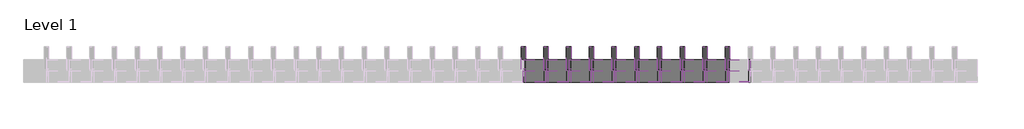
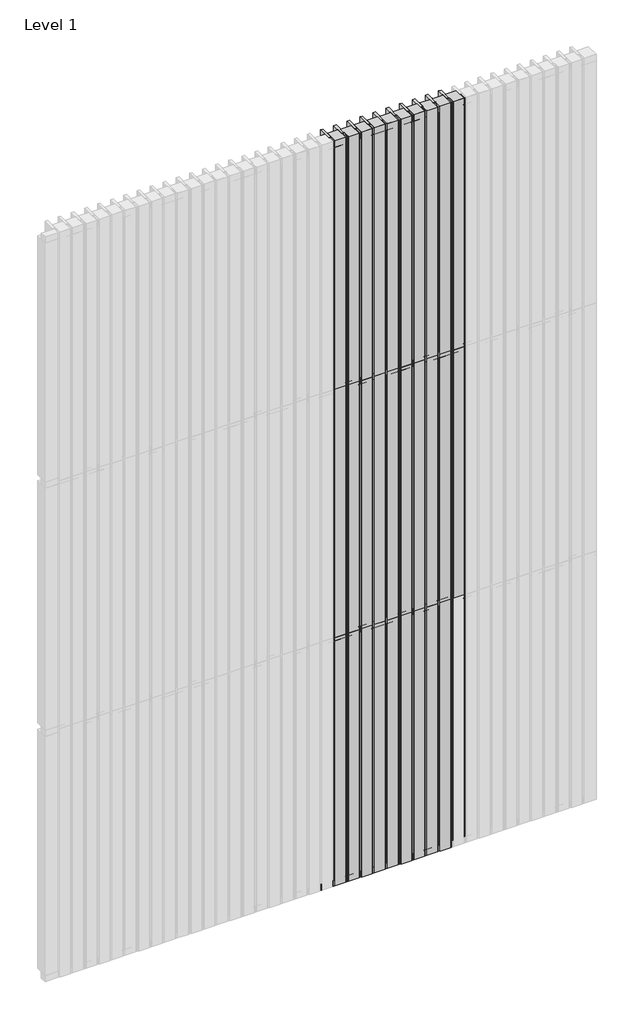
# One storey, part 5 of 6: 70 members, 59 plates.
"""IFC4 building model written with IfcOpenShell, lengths in millimetres."""

from ifc_helpers import new_model, si_unit, origin, place, context, project, spatial, transform, mapped, element, save
from components import rectangular_mullion_cddbc660, rectangular_mullion_a3e25429, rectangular_mullion_ae434dd9, rectangular_mullion_30cdfca6, empty_system_panel_empty_5411477d, empty_system_panel_empty_c50988b4, empty_system_panel_empty_3767e820

model = new_model("IFC4")

# Units and contexts
model_context = context("Model", 3, world=origin())
ifc_project = project(units=[si_unit("LENGTHUNIT", "METRE", prefix="MILLI")], contexts=[model_context])

# Site, building, storey
site = spatial("IfcSite", under=ifc_project)
building = spatial("IfcBuilding", under=site)
storey = spatial("IfcBuildingStorey", under=building, Name="Level 1", Elevation=0.0)

# Members
placement = place(None, origin())
rectangular_mullion_shape = rectangular_mullion_cddbc660(model_context)
element("IfcMember", 1, ObjectType="Rectangular Mullion : RSen_21_CWM_support profile 50x50 - left_gen_duco projects", at=placement, inside=storey, context=model_context, shape_type="MappedRepresentation", body=[
    mapped(rectangular_mullion_shape, transform((4900.0, 3000.0, 6000.0), x_axis=(0.0, 0.0, 1.0), y_axis=(0.0, 1.0, 0.0), z_axis=(-1.0, 0.0, 0.0))),
])
element("IfcMember", 2, ObjectType="Rectangular Mullion : RSen_21_CWM_support profile 50x50 - left_gen_duco projects", at=placement, inside=storey, context=model_context, shape_type="MappedRepresentation", body=[
    mapped(rectangular_mullion_shape, transform((4800.0, 3000.0, 6000.0), x_axis=(0.0, 0.0, 1.0), y_axis=(0.0, 1.0, 0.0), z_axis=(-1.0, 0.0, 0.0))),
])
element("IfcMember", 3, ObjectType="Rectangular Mullion : RSen_21_CWM_support profile 50x50 - left_gen_duco projects", at=placement, inside=storey, context=model_context, shape_type="MappedRepresentation", body=[
    mapped(rectangular_mullion_shape, transform((4700.0, 3000.0, 6000.0), x_axis=(0.0, 0.0, 1.0), y_axis=(0.0, 1.0, 0.0), z_axis=(-1.0, 0.0, 0.0))),
])
element("IfcMember", 4, ObjectType="Rectangular Mullion : RSen_21_CWM_support profile 50x50 - left_gen_duco projects", at=placement, inside=storey, context=model_context, shape_type="MappedRepresentation", body=[
    mapped(rectangular_mullion_shape, transform((4600.0, 3000.0, 6000.0), x_axis=(0.0, 0.0, 1.0), y_axis=(0.0, 1.0, 0.0), z_axis=(-1.0, 0.0, 0.0))),
])
element("IfcMember", 5, ObjectType="Rectangular Mullion : RSen_21_CWM_support profile 50x50 - left_gen_duco projects", at=placement, inside=storey, context=model_context, shape_type="MappedRepresentation", body=[
    mapped(rectangular_mullion_shape, transform((4500.0, 3000.0, 6000.0), x_axis=(0.0, 0.0, 1.0), y_axis=(0.0, 1.0, 0.0), z_axis=(-1.0, 0.0, 0.0))),
])
element("IfcMember", 6, ObjectType="Rectangular Mullion : RSen_21_CWM_support profile 50x50 - left_gen_duco projects", at=placement, inside=storey, context=model_context, shape_type="MappedRepresentation", body=[
    mapped(rectangular_mullion_shape, transform((4400.0, 3000.0, 6000.0), x_axis=(0.0, 0.0, 1.0), y_axis=(0.0, 1.0, 0.0), z_axis=(-1.0, 0.0, 0.0))),
])
element("IfcMember", 7, ObjectType="Rectangular Mullion : RSen_21_CWM_support profile 50x50 - left_gen_duco projects", at=placement, inside=storey, context=model_context, shape_type="MappedRepresentation", body=[
    mapped(rectangular_mullion_shape, transform((4300.0, 3000.0, 6000.0), x_axis=(0.0, 0.0, 1.0), y_axis=(0.0, 1.0, 0.0), z_axis=(-1.0, 0.0, 0.0))),
])
element("IfcMember", 8, ObjectType="Rectangular Mullion : RSen_21_CWM_support profile 50x50 - left_gen_duco projects", at=placement, inside=storey, context=model_context, shape_type="MappedRepresentation", body=[
    mapped(rectangular_mullion_shape, transform((4200.0, 3000.0, 6000.0), x_axis=(0.0, 0.0, 1.0), y_axis=(0.0, 1.0, 0.0), z_axis=(-1.0, 0.0, 0.0))),
])
element("IfcMember", 9, ObjectType="Rectangular Mullion : RSen_21_CWM_support profile 50x50 - left_gen_duco projects", at=placement, inside=storey, context=model_context, shape_type="MappedRepresentation", body=[
    mapped(rectangular_mullion_shape, transform((4100.0, 3000.0, 6000.0), x_axis=(0.0, 0.0, 1.0), y_axis=(0.0, 1.0, 0.0), z_axis=(-1.0, 0.0, 0.0))),
])
element("IfcMember", 10, ObjectType="Rectangular Mullion : RSen_21_CWM_support profile 50x50 - left_gen_duco projects", at=placement, inside=storey, context=model_context, shape_type="MappedRepresentation", body=[
    mapped(rectangular_mullion_shape, transform((4000.0, 3000.0, 6000.0), x_axis=(0.0, 0.0, 1.0), y_axis=(0.0, 1.0, 0.0), z_axis=(-1.0, 0.0, 0.0))),
])
rectangular_mullion_2_shape = rectangular_mullion_a3e25429(model_context)
element("IfcMember", 11, ObjectType="Rectangular Mullion : RSen_21_CWM_support profile 50x50 - right_gen_duco projects", at=placement, inside=storey, context=model_context, shape_type="MappedRepresentation", body=[
    mapped(rectangular_mullion_2_shape, transform((4900.0, 3000.0, 0.0), x_axis=(0.0, 0.0, -1.0), y_axis=(0.0, 1.0, 0.0), z_axis=(1.0, 0.0, 0.0))),
])
element("IfcMember", 12, ObjectType="Rectangular Mullion : RSen_21_CWM_support profile 50x50 - right_gen_duco projects", at=placement, inside=storey, context=model_context, shape_type="MappedRepresentation", body=[
    mapped(rectangular_mullion_2_shape, transform((4800.0, 3000.0, 0.0), x_axis=(0.0, 0.0, -1.0), y_axis=(0.0, 1.0, 0.0), z_axis=(1.0, 0.0, 0.0))),
])
element("IfcMember", 13, ObjectType="Rectangular Mullion : RSen_21_CWM_support profile 50x50 - right_gen_duco projects", at=placement, inside=storey, context=model_context, shape_type="MappedRepresentation", body=[
    mapped(rectangular_mullion_2_shape, transform((4700.0, 3000.0, 0.0), x_axis=(0.0, 0.0, -1.0), y_axis=(0.0, 1.0, 0.0), z_axis=(1.0, 0.0, 0.0))),
])
element("IfcMember", 14, ObjectType="Rectangular Mullion : RSen_21_CWM_support profile 50x50 - right_gen_duco projects", at=placement, inside=storey, context=model_context, shape_type="MappedRepresentation", body=[
    mapped(rectangular_mullion_2_shape, transform((4600.0, 3000.0, 0.0), x_axis=(0.0, 0.0, -1.0), y_axis=(0.0, 1.0, 0.0), z_axis=(1.0, 0.0, 0.0))),
])
element("IfcMember", 15, ObjectType="Rectangular Mullion : RSen_21_CWM_support profile 50x50 - right_gen_duco projects", at=placement, inside=storey, context=model_context, shape_type="MappedRepresentation", body=[
    mapped(rectangular_mullion_2_shape, transform((4500.0, 3000.0, 0.0), x_axis=(0.0, 0.0, -1.0), y_axis=(0.0, 1.0, 0.0), z_axis=(1.0, 0.0, 0.0))),
])
element("IfcMember", 16, ObjectType="Rectangular Mullion : RSen_21_CWM_support profile 50x50 - right_gen_duco projects", at=placement, inside=storey, context=model_context, shape_type="MappedRepresentation", body=[
    mapped(rectangular_mullion_2_shape, transform((4400.0, 3000.0, 0.0), x_axis=(0.0, 0.0, -1.0), y_axis=(0.0, 1.0, 0.0), z_axis=(1.0, 0.0, 0.0))),
])
element("IfcMember", 17, ObjectType="Rectangular Mullion : RSen_21_CWM_support profile 50x50 - right_gen_duco projects", at=placement, inside=storey, context=model_context, shape_type="MappedRepresentation", body=[
    mapped(rectangular_mullion_2_shape, transform((4300.0, 3000.0, 0.0), x_axis=(0.0, 0.0, -1.0), y_axis=(0.0, 1.0, 0.0), z_axis=(1.0, 0.0, 0.0))),
])
element("IfcMember", 18, ObjectType="Rectangular Mullion : RSen_21_CWM_support profile 50x50 - right_gen_duco projects", at=placement, inside=storey, context=model_context, shape_type="MappedRepresentation", body=[
    mapped(rectangular_mullion_2_shape, transform((4200.0, 3000.0, 0.0), x_axis=(0.0, 0.0, -1.0), y_axis=(0.0, 1.0, 0.0), z_axis=(1.0, 0.0, 0.0))),
])
element("IfcMember", 19, ObjectType="Rectangular Mullion : RSen_21_CWM_support profile 50x50 - right_gen_duco projects", at=placement, inside=storey, context=model_context, shape_type="MappedRepresentation", body=[
    mapped(rectangular_mullion_2_shape, transform((4100.0, 3000.0, 0.0), x_axis=(0.0, 0.0, -1.0), y_axis=(0.0, 1.0, 0.0), z_axis=(1.0, 0.0, 0.0))),
])
element("IfcMember", 20, ObjectType="Rectangular Mullion : RSen_21_CWM_support profile 50x50 - right_gen_duco projects", at=placement, inside=storey, context=model_context, shape_type="MappedRepresentation", body=[
    mapped(rectangular_mullion_2_shape, transform((4000.0, 3000.0, 0.0), x_axis=(0.0, 0.0, -1.0), y_axis=(0.0, 1.0, 0.0), z_axis=(1.0, 0.0, 0.0))),
])
rectangular_mullion_3_shape = rectangular_mullion_ae434dd9(model_context)
element("IfcMember", 21, ObjectType="Rectangular Mullion : RSen_21_CWM_support profile 50x50_gen_duco projects", at=placement, inside=storey, context=model_context, shape_type="MappedRepresentation", body=[
    mapped(rectangular_mullion_3_shape, transform((4900.0, 3000.0, 2000.0), x_axis=(0.0, 0.0, 1.0), y_axis=(0.0, 1.0, 0.0), z_axis=(-1.0, 0.0, 0.0))),
])
element("IfcMember", 22, ObjectType="Rectangular Mullion : RSen_21_CWM_support profile 50x50_gen_duco projects", at=placement, inside=storey, context=model_context, shape_type="MappedRepresentation", body=[
    mapped(rectangular_mullion_3_shape, transform((4800.0, 3000.0, 2000.0), x_axis=(0.0, 0.0, 1.0), y_axis=(0.0, 1.0, 0.0), z_axis=(-1.0, 0.0, 0.0))),
])
element("IfcMember", 23, ObjectType="Rectangular Mullion : RSen_21_CWM_support profile 50x50_gen_duco projects", at=placement, inside=storey, context=model_context, shape_type="MappedRepresentation", body=[
    mapped(rectangular_mullion_3_shape, transform((4700.0, 3000.0, 2000.0), x_axis=(0.0, 0.0, 1.0), y_axis=(0.0, 1.0, 0.0), z_axis=(-1.0, 0.0, 0.0))),
])
element("IfcMember", 24, ObjectType="Rectangular Mullion : RSen_21_CWM_support profile 50x50_gen_duco projects", at=placement, inside=storey, context=model_context, shape_type="MappedRepresentation", body=[
    mapped(rectangular_mullion_3_shape, transform((4600.0, 3000.0, 2000.0), x_axis=(0.0, 0.0, 1.0), y_axis=(0.0, 1.0, 0.0), z_axis=(-1.0, 0.0, 0.0))),
])
element("IfcMember", 25, ObjectType="Rectangular Mullion : RSen_21_CWM_support profile 50x50_gen_duco projects", at=placement, inside=storey, context=model_context, shape_type="MappedRepresentation", body=[
    mapped(rectangular_mullion_3_shape, transform((4500.0, 3000.0, 2000.0), x_axis=(0.0, 0.0, 1.0), y_axis=(0.0, 1.0, 0.0), z_axis=(-1.0, 0.0, 0.0))),
])
element("IfcMember", 26, ObjectType="Rectangular Mullion : RSen_21_CWM_support profile 50x50_gen_duco projects", at=placement, inside=storey, context=model_context, shape_type="MappedRepresentation", body=[
    mapped(rectangular_mullion_3_shape, transform((4400.0, 3000.0, 2000.0), x_axis=(0.0, 0.0, 1.0), y_axis=(0.0, 1.0, 0.0), z_axis=(-1.0, 0.0, 0.0))),
])
element("IfcMember", 27, ObjectType="Rectangular Mullion : RSen_21_CWM_support profile 50x50_gen_duco projects", at=placement, inside=storey, context=model_context, shape_type="MappedRepresentation", body=[
    mapped(rectangular_mullion_3_shape, transform((4300.0, 3000.0, 2000.0), x_axis=(0.0, 0.0, 1.0), y_axis=(0.0, 1.0, 0.0), z_axis=(-1.0, 0.0, 0.0))),
])
element("IfcMember", 28, ObjectType="Rectangular Mullion : RSen_21_CWM_support profile 50x50_gen_duco projects", at=placement, inside=storey, context=model_context, shape_type="MappedRepresentation", body=[
    mapped(rectangular_mullion_3_shape, transform((4200.0, 3000.0, 2000.0), x_axis=(0.0, 0.0, 1.0), y_axis=(0.0, 1.0, 0.0), z_axis=(-1.0, 0.0, 0.0))),
])
element("IfcMember", 29, ObjectType="Rectangular Mullion : RSen_21_CWM_support profile 50x50_gen_duco projects", at=placement, inside=storey, context=model_context, shape_type="MappedRepresentation", body=[
    mapped(rectangular_mullion_3_shape, transform((4100.0, 3000.0, 2000.0), x_axis=(0.0, 0.0, 1.0), y_axis=(0.0, 1.0, 0.0), z_axis=(-1.0, 0.0, 0.0))),
])
element("IfcMember", 30, ObjectType="Rectangular Mullion : RSen_21_CWM_support profile 50x50_gen_duco projects", at=placement, inside=storey, context=model_context, shape_type="MappedRepresentation", body=[
    mapped(rectangular_mullion_3_shape, transform((4000.0, 3000.0, 2000.0), x_axis=(0.0, 0.0, 1.0), y_axis=(0.0, 1.0, 0.0), z_axis=(-1.0, 0.0, 0.0))),
])
element("IfcMember", 31, ObjectType="Rectangular Mullion : RSen_21_CWM_support profile 50x50_gen_duco projects", at=placement, inside=storey, context=model_context, shape_type="MappedRepresentation", body=[
    mapped(rectangular_mullion_3_shape, transform((4900.0, 3000.0, 4000.0), x_axis=(0.0, 0.0, 1.0), y_axis=(0.0, 1.0, 0.0), z_axis=(-1.0, 0.0, 0.0))),
])
element("IfcMember", 32, ObjectType="Rectangular Mullion : RSen_21_CWM_support profile 50x50_gen_duco projects", at=placement, inside=storey, context=model_context, shape_type="MappedRepresentation", body=[
    mapped(rectangular_mullion_3_shape, transform((4800.0, 3000.0, 4000.0), x_axis=(0.0, 0.0, 1.0), y_axis=(0.0, 1.0, 0.0), z_axis=(-1.0, 0.0, 0.0))),
])
element("IfcMember", 33, ObjectType="Rectangular Mullion : RSen_21_CWM_support profile 50x50_gen_duco projects", at=placement, inside=storey, context=model_context, shape_type="MappedRepresentation", body=[
    mapped(rectangular_mullion_3_shape, transform((4700.0, 3000.0, 4000.0), x_axis=(0.0, 0.0, 1.0), y_axis=(0.0, 1.0, 0.0), z_axis=(-1.0, 0.0, 0.0))),
])
element("IfcMember", 34, ObjectType="Rectangular Mullion : RSen_21_CWM_support profile 50x50_gen_duco projects", at=placement, inside=storey, context=model_context, shape_type="MappedRepresentation", body=[
    mapped(rectangular_mullion_3_shape, transform((4600.0, 3000.0, 4000.0), x_axis=(0.0, 0.0, 1.0), y_axis=(0.0, 1.0, 0.0), z_axis=(-1.0, 0.0, 0.0))),
])
element("IfcMember", 35, ObjectType="Rectangular Mullion : RSen_21_CWM_support profile 50x50_gen_duco projects", at=placement, inside=storey, context=model_context, shape_type="MappedRepresentation", body=[
    mapped(rectangular_mullion_3_shape, transform((4500.0, 3000.0, 4000.0), x_axis=(0.0, 0.0, 1.0), y_axis=(0.0, 1.0, 0.0), z_axis=(-1.0, 0.0, 0.0))),
])
element("IfcMember", 36, ObjectType="Rectangular Mullion : RSen_21_CWM_support profile 50x50_gen_duco projects", at=placement, inside=storey, context=model_context, shape_type="MappedRepresentation", body=[
    mapped(rectangular_mullion_3_shape, transform((4400.0, 3000.0, 4000.0), x_axis=(0.0, 0.0, 1.0), y_axis=(0.0, 1.0, 0.0), z_axis=(-1.0, 0.0, 0.0))),
])
element("IfcMember", 37, ObjectType="Rectangular Mullion : RSen_21_CWM_support profile 50x50_gen_duco projects", at=placement, inside=storey, context=model_context, shape_type="MappedRepresentation", body=[
    mapped(rectangular_mullion_3_shape, transform((4300.0, 3000.0, 4000.0), x_axis=(0.0, 0.0, 1.0), y_axis=(0.0, 1.0, 0.0), z_axis=(-1.0, 0.0, 0.0))),
])
element("IfcMember", 38, ObjectType="Rectangular Mullion : RSen_21_CWM_support profile 50x50_gen_duco projects", at=placement, inside=storey, context=model_context, shape_type="MappedRepresentation", body=[
    mapped(rectangular_mullion_3_shape, transform((4200.0, 3000.0, 4000.0), x_axis=(0.0, 0.0, 1.0), y_axis=(0.0, 1.0, 0.0), z_axis=(-1.0, 0.0, 0.0))),
])
element("IfcMember", 39, ObjectType="Rectangular Mullion : RSen_21_CWM_support profile 50x50_gen_duco projects", at=placement, inside=storey, context=model_context, shape_type="MappedRepresentation", body=[
    mapped(rectangular_mullion_3_shape, transform((4100.0, 3000.0, 4000.0), x_axis=(0.0, 0.0, 1.0), y_axis=(0.0, 1.0, 0.0), z_axis=(-1.0, 0.0, 0.0))),
])
element("IfcMember", 40, ObjectType="Rectangular Mullion : RSen_21_CWM_support profile 50x50_gen_duco projects", at=placement, inside=storey, context=model_context, shape_type="MappedRepresentation", body=[
    mapped(rectangular_mullion_3_shape, transform((4000.0, 3000.0, 4000.0), x_axis=(0.0, 0.0, 1.0), y_axis=(0.0, 1.0, 0.0), z_axis=(-1.0, 0.0, 0.0))),
])
rectangular_mullion_4_shape = rectangular_mullion_30cdfca6(model_context)
element("IfcMember", 41, ObjectType="Rectangular Mullion : RSen_21_CWM_blade - cubic 100 - 0°_gen_duco projects", at=placement, inside=storey, context=model_context, shape_type="MappedRepresentation", body=[
    mapped(rectangular_mullion_4_shape, transform((4900.0, 3000.0, 0.0), x_axis=(-1.0, 0.0, 0.0), y_axis=(0.0, 1.0, 0.0), z_axis=(0.0, 0.0, -1.0))),
])
element("IfcMember", 42, ObjectType="Rectangular Mullion : RSen_21_CWM_blade - cubic 100 - 0°_gen_duco projects", at=placement, inside=storey, context=model_context, shape_type="MappedRepresentation", body=[
    mapped(rectangular_mullion_4_shape, transform((4800.0, 3000.0, 0.0), x_axis=(-1.0, 0.0, 0.0), y_axis=(0.0, 1.0, 0.0), z_axis=(0.0, 0.0, -1.0))),
])
element("IfcMember", 43, ObjectType="Rectangular Mullion : RSen_21_CWM_blade - cubic 100 - 0°_gen_duco projects", at=placement, inside=storey, context=model_context, shape_type="MappedRepresentation", body=[
    mapped(rectangular_mullion_4_shape, transform((4700.0, 3000.0, 0.0), x_axis=(-1.0, 0.0, 0.0), y_axis=(0.0, 1.0, 0.0), z_axis=(0.0, 0.0, -1.0))),
])
element("IfcMember", 44, ObjectType="Rectangular Mullion : RSen_21_CWM_blade - cubic 100 - 0°_gen_duco projects", at=placement, inside=storey, context=model_context, shape_type="MappedRepresentation", body=[
    mapped(rectangular_mullion_4_shape, transform((4600.0, 3000.0, 0.0), x_axis=(-1.0, 0.0, 0.0), y_axis=(0.0, 1.0, 0.0), z_axis=(0.0, 0.0, -1.0))),
])
element("IfcMember", 45, ObjectType="Rectangular Mullion : RSen_21_CWM_blade - cubic 100 - 0°_gen_duco projects", at=placement, inside=storey, context=model_context, shape_type="MappedRepresentation", body=[
    mapped(rectangular_mullion_4_shape, transform((4500.0, 3000.0, 0.0), x_axis=(-1.0, 0.0, 0.0), y_axis=(0.0, 1.0, 0.0), z_axis=(0.0, 0.0, -1.0))),
])
element("IfcMember", 46, ObjectType="Rectangular Mullion : RSen_21_CWM_blade - cubic 100 - 0°_gen_duco projects", at=placement, inside=storey, context=model_context, shape_type="MappedRepresentation", body=[
    mapped(rectangular_mullion_4_shape, transform((4400.0, 3000.0, 0.0), x_axis=(-1.0, 0.0, 0.0), y_axis=(0.0, 1.0, 0.0), z_axis=(0.0, 0.0, -1.0))),
])
element("IfcMember", 47, ObjectType="Rectangular Mullion : RSen_21_CWM_blade - cubic 100 - 0°_gen_duco projects", at=placement, inside=storey, context=model_context, shape_type="MappedRepresentation", body=[
    mapped(rectangular_mullion_4_shape, transform((4300.0, 3000.0, 0.0), x_axis=(-1.0, 0.0, 0.0), y_axis=(0.0, 1.0, 0.0), z_axis=(0.0, 0.0, -1.0))),
])
element("IfcMember", 48, ObjectType="Rectangular Mullion : RSen_21_CWM_blade - cubic 100 - 0°_gen_duco projects", at=placement, inside=storey, context=model_context, shape_type="MappedRepresentation", body=[
    mapped(rectangular_mullion_4_shape, transform((4200.0, 3000.0, 0.0), x_axis=(-1.0, 0.0, 0.0), y_axis=(0.0, 1.0, 0.0), z_axis=(0.0, 0.0, -1.0))),
])
element("IfcMember", 49, ObjectType="Rectangular Mullion : RSen_21_CWM_blade - cubic 100 - 0°_gen_duco projects", at=placement, inside=storey, context=model_context, shape_type="MappedRepresentation", body=[
    mapped(rectangular_mullion_4_shape, transform((4100.0, 3000.0, 0.0), x_axis=(-1.0, 0.0, 0.0), y_axis=(0.0, 1.0, 0.0), z_axis=(0.0, 0.0, -1.0))),
])
element("IfcMember", 50, ObjectType="Rectangular Mullion : RSen_21_CWM_blade - cubic 100 - 0°_gen_duco projects", at=placement, inside=storey, context=model_context, shape_type="MappedRepresentation", body=[
    mapped(rectangular_mullion_4_shape, transform((4000.0, 3000.0, 0.0), x_axis=(-1.0, 0.0, 0.0), y_axis=(0.0, 1.0, 0.0), z_axis=(0.0, 0.0, -1.0))),
])
element("IfcMember", 51, ObjectType="Rectangular Mullion : RSen_21_CWM_blade - cubic 100 - 0°_gen_duco projects", at=placement, inside=storey, context=model_context, shape_type="MappedRepresentation", body=[
    mapped(rectangular_mullion_4_shape, transform((4900.0, 3000.0, 2000.0), x_axis=(-1.0, 0.0, 0.0), y_axis=(0.0, 1.0, 0.0), z_axis=(0.0, 0.0, -1.0))),
])
element("IfcMember", 52, ObjectType="Rectangular Mullion : RSen_21_CWM_blade - cubic 100 - 0°_gen_duco projects", at=placement, inside=storey, context=model_context, shape_type="MappedRepresentation", body=[
    mapped(rectangular_mullion_4_shape, transform((4800.0, 3000.0, 2000.0), x_axis=(-1.0, 0.0, 0.0), y_axis=(0.0, 1.0, 0.0), z_axis=(0.0, 0.0, -1.0))),
])
element("IfcMember", 53, ObjectType="Rectangular Mullion : RSen_21_CWM_blade - cubic 100 - 0°_gen_duco projects", at=placement, inside=storey, context=model_context, shape_type="MappedRepresentation", body=[
    mapped(rectangular_mullion_4_shape, transform((4700.0, 3000.0, 2000.0), x_axis=(-1.0, 0.0, 0.0), y_axis=(0.0, 1.0, 0.0), z_axis=(0.0, 0.0, -1.0))),
])
element("IfcMember", 54, ObjectType="Rectangular Mullion : RSen_21_CWM_blade - cubic 100 - 0°_gen_duco projects", at=placement, inside=storey, context=model_context, shape_type="MappedRepresentation", body=[
    mapped(rectangular_mullion_4_shape, transform((4600.0, 3000.0, 2000.0), x_axis=(-1.0, 0.0, 0.0), y_axis=(0.0, 1.0, 0.0), z_axis=(0.0, 0.0, -1.0))),
])
element("IfcMember", 55, ObjectType="Rectangular Mullion : RSen_21_CWM_blade - cubic 100 - 0°_gen_duco projects", at=placement, inside=storey, context=model_context, shape_type="MappedRepresentation", body=[
    mapped(rectangular_mullion_4_shape, transform((4500.0, 3000.0, 2000.0), x_axis=(-1.0, 0.0, 0.0), y_axis=(0.0, 1.0, 0.0), z_axis=(0.0, 0.0, -1.0))),
])
element("IfcMember", 56, ObjectType="Rectangular Mullion : RSen_21_CWM_blade - cubic 100 - 0°_gen_duco projects", at=placement, inside=storey, context=model_context, shape_type="MappedRepresentation", body=[
    mapped(rectangular_mullion_4_shape, transform((4400.0, 3000.0, 2000.0), x_axis=(-1.0, 0.0, 0.0), y_axis=(0.0, 1.0, 0.0), z_axis=(0.0, 0.0, -1.0))),
])
element("IfcMember", 57, ObjectType="Rectangular Mullion : RSen_21_CWM_blade - cubic 100 - 0°_gen_duco projects", at=placement, inside=storey, context=model_context, shape_type="MappedRepresentation", body=[
    mapped(rectangular_mullion_4_shape, transform((4300.0, 3000.0, 2000.0), x_axis=(-1.0, 0.0, 0.0), y_axis=(0.0, 1.0, 0.0), z_axis=(0.0, 0.0, -1.0))),
])
element("IfcMember", 58, ObjectType="Rectangular Mullion : RSen_21_CWM_blade - cubic 100 - 0°_gen_duco projects", at=placement, inside=storey, context=model_context, shape_type="MappedRepresentation", body=[
    mapped(rectangular_mullion_4_shape, transform((4200.0, 3000.0, 2000.0), x_axis=(-1.0, 0.0, 0.0), y_axis=(0.0, 1.0, 0.0), z_axis=(0.0, 0.0, -1.0))),
])
element("IfcMember", 59, ObjectType="Rectangular Mullion : RSen_21_CWM_blade - cubic 100 - 0°_gen_duco projects", at=placement, inside=storey, context=model_context, shape_type="MappedRepresentation", body=[
    mapped(rectangular_mullion_4_shape, transform((4100.0, 3000.0, 2000.0), x_axis=(-1.0, 0.0, 0.0), y_axis=(0.0, 1.0, 0.0), z_axis=(0.0, 0.0, -1.0))),
])
element("IfcMember", 60, ObjectType="Rectangular Mullion : RSen_21_CWM_blade - cubic 100 - 0°_gen_duco projects", at=placement, inside=storey, context=model_context, shape_type="MappedRepresentation", body=[
    mapped(rectangular_mullion_4_shape, transform((4000.0, 3000.0, 2000.0), x_axis=(-1.0, 0.0, 0.0), y_axis=(0.0, 1.0, 0.0), z_axis=(0.0, 0.0, -1.0))),
])
element("IfcMember", 61, ObjectType="Rectangular Mullion : RSen_21_CWM_blade - cubic 100 - 0°_gen_duco projects", at=placement, inside=storey, context=model_context, shape_type="MappedRepresentation", body=[
    mapped(rectangular_mullion_4_shape, transform((4900.0, 3000.0, 4000.0), x_axis=(-1.0, 0.0, 0.0), y_axis=(0.0, 1.0, 0.0), z_axis=(0.0, 0.0, -1.0))),
])
element("IfcMember", 62, ObjectType="Rectangular Mullion : RSen_21_CWM_blade - cubic 100 - 0°_gen_duco projects", at=placement, inside=storey, context=model_context, shape_type="MappedRepresentation", body=[
    mapped(rectangular_mullion_4_shape, transform((4800.0, 3000.0, 4000.0), x_axis=(-1.0, 0.0, 0.0), y_axis=(0.0, 1.0, 0.0), z_axis=(0.0, 0.0, -1.0))),
])
element("IfcMember", 63, ObjectType="Rectangular Mullion : RSen_21_CWM_blade - cubic 100 - 0°_gen_duco projects", at=placement, inside=storey, context=model_context, shape_type="MappedRepresentation", body=[
    mapped(rectangular_mullion_4_shape, transform((4700.0, 3000.0, 4000.0), x_axis=(-1.0, 0.0, 0.0), y_axis=(0.0, 1.0, 0.0), z_axis=(0.0, 0.0, -1.0))),
])
element("IfcMember", 64, ObjectType="Rectangular Mullion : RSen_21_CWM_blade - cubic 100 - 0°_gen_duco projects", at=placement, inside=storey, context=model_context, shape_type="MappedRepresentation", body=[
    mapped(rectangular_mullion_4_shape, transform((4600.0, 3000.0, 4000.0), x_axis=(-1.0, 0.0, 0.0), y_axis=(0.0, 1.0, 0.0), z_axis=(0.0, 0.0, -1.0))),
])
element("IfcMember", 65, ObjectType="Rectangular Mullion : RSen_21_CWM_blade - cubic 100 - 0°_gen_duco projects", at=placement, inside=storey, context=model_context, shape_type="MappedRepresentation", body=[
    mapped(rectangular_mullion_4_shape, transform((4500.0, 3000.0, 4000.0), x_axis=(-1.0, 0.0, 0.0), y_axis=(0.0, 1.0, 0.0), z_axis=(0.0, 0.0, -1.0))),
])
element("IfcMember", 66, ObjectType="Rectangular Mullion : RSen_21_CWM_blade - cubic 100 - 0°_gen_duco projects", at=placement, inside=storey, context=model_context, shape_type="MappedRepresentation", body=[
    mapped(rectangular_mullion_4_shape, transform((4400.0, 3000.0, 4000.0), x_axis=(-1.0, 0.0, 0.0), y_axis=(0.0, 1.0, 0.0), z_axis=(0.0, 0.0, -1.0))),
])
element("IfcMember", 67, ObjectType="Rectangular Mullion : RSen_21_CWM_blade - cubic 100 - 0°_gen_duco projects", at=placement, inside=storey, context=model_context, shape_type="MappedRepresentation", body=[
    mapped(rectangular_mullion_4_shape, transform((4300.0, 3000.0, 4000.0), x_axis=(-1.0, 0.0, 0.0), y_axis=(0.0, 1.0, 0.0), z_axis=(0.0, 0.0, -1.0))),
])
element("IfcMember", 68, ObjectType="Rectangular Mullion : RSen_21_CWM_blade - cubic 100 - 0°_gen_duco projects", at=placement, inside=storey, context=model_context, shape_type="MappedRepresentation", body=[
    mapped(rectangular_mullion_4_shape, transform((4200.0, 3000.0, 4000.0), x_axis=(-1.0, 0.0, 0.0), y_axis=(0.0, 1.0, 0.0), z_axis=(0.0, 0.0, -1.0))),
])
element("IfcMember", 69, ObjectType="Rectangular Mullion : RSen_21_CWM_blade - cubic 100 - 0°_gen_duco projects", at=placement, inside=storey, context=model_context, shape_type="MappedRepresentation", body=[
    mapped(rectangular_mullion_4_shape, transform((4100.0, 3000.0, 4000.0), x_axis=(-1.0, 0.0, 0.0), y_axis=(0.0, 1.0, 0.0), z_axis=(0.0, 0.0, -1.0))),
])
element("IfcMember", 70, ObjectType="Rectangular Mullion : RSen_21_CWM_blade - cubic 100 - 0°_gen_duco projects", at=placement, inside=storey, context=model_context, shape_type="MappedRepresentation", body=[
    mapped(rectangular_mullion_4_shape, transform((4000.0, 3000.0, 4000.0), x_axis=(-1.0, 0.0, 0.0), y_axis=(0.0, 1.0, 0.0), z_axis=(0.0, 0.0, -1.0))),
])

# Plates
empty_system_panel_empty_shape = empty_system_panel_empty_5411477d(model_context)
element("IfcPlate", 71, ObjectType="Empty System Panel : Empty", at=placement, inside=storey, context=model_context, shape_type="MappedRepresentation", body=[
    mapped(empty_system_panel_empty_shape, transform((4950.0, 3000.0, 50.0), x_axis=(-1.0, 0.0, 0.0), y_axis=(0.0, -1.0, 0.0), z_axis=(0.0, 0.0, 1.0))),
])
element("IfcPlate", 72, ObjectType="Empty System Panel : Empty", at=placement, inside=storey, context=model_context, shape_type="MappedRepresentation", body=[
    mapped(empty_system_panel_empty_shape, transform((4850.0, 3000.0, 50.0), x_axis=(-1.0, 0.0, 0.0), y_axis=(0.0, -1.0, 0.0), z_axis=(0.0, 0.0, 1.0))),
])
element("IfcPlate", 73, ObjectType="Empty System Panel : Empty", at=placement, inside=storey, context=model_context, shape_type="MappedRepresentation", body=[
    mapped(empty_system_panel_empty_shape, transform((4750.0, 3000.0, 50.0), x_axis=(-1.0, 0.0, 0.0), y_axis=(0.0, -1.0, 0.0), z_axis=(0.0, 0.0, 1.0))),
])
element("IfcPlate", 74, ObjectType="Empty System Panel : Empty", at=placement, inside=storey, context=model_context, shape_type="MappedRepresentation", body=[
    mapped(empty_system_panel_empty_shape, transform((4650.0, 3000.0, 50.0), x_axis=(-1.0, 0.0, 0.0), y_axis=(0.0, -1.0, 0.0), z_axis=(0.0, 0.0, 1.0))),
])
element("IfcPlate", 75, ObjectType="Empty System Panel : Empty", at=placement, inside=storey, context=model_context, shape_type="MappedRepresentation", body=[
    mapped(empty_system_panel_empty_shape, transform((4550.0, 3000.0, 50.0), x_axis=(-1.0, 0.0, 0.0), y_axis=(0.0, -1.0, 0.0), z_axis=(0.0, 0.0, 1.0))),
])
element("IfcPlate", 76, ObjectType="Empty System Panel : Empty", at=placement, inside=storey, context=model_context, shape_type="MappedRepresentation", body=[
    mapped(empty_system_panel_empty_shape, transform((4450.0, 3000.0, 50.0), x_axis=(-1.0, 0.0, 0.0), y_axis=(0.0, -1.0, 0.0), z_axis=(0.0, 0.0, 1.0))),
])
element("IfcPlate", 77, ObjectType="Empty System Panel : Empty", at=placement, inside=storey, context=model_context, shape_type="MappedRepresentation", body=[
    mapped(empty_system_panel_empty_shape, transform((4350.0, 3000.0, 50.0), x_axis=(-1.0, 0.0, 0.0), y_axis=(0.0, -1.0, 0.0), z_axis=(0.0, 0.0, 1.0))),
])
element("IfcPlate", 78, ObjectType="Empty System Panel : Empty", at=placement, inside=storey, context=model_context, shape_type="MappedRepresentation", body=[
    mapped(empty_system_panel_empty_shape, transform((4250.0, 3000.0, 50.0), x_axis=(-1.0, 0.0, 0.0), y_axis=(0.0, -1.0, 0.0), z_axis=(0.0, 0.0, 1.0))),
])
element("IfcPlate", 79, ObjectType="Empty System Panel : Empty", at=placement, inside=storey, context=model_context, shape_type="MappedRepresentation", body=[
    mapped(empty_system_panel_empty_shape, transform((4150.0, 3000.0, 50.0), x_axis=(-1.0, 0.0, 0.0), y_axis=(0.0, -1.0, 0.0), z_axis=(0.0, 0.0, 1.0))),
])
element("IfcPlate", 80, ObjectType="Empty System Panel : Empty", at=placement, inside=storey, context=model_context, shape_type="MappedRepresentation", body=[
    mapped(empty_system_panel_empty_shape, transform((4050.0, 3000.0, 50.0), x_axis=(-1.0, 0.0, 0.0), y_axis=(0.0, -1.0, 0.0), z_axis=(0.0, 0.0, 1.0))),
])
element("IfcPlate", 81, ObjectType="Empty System Panel : Empty", at=placement, inside=storey, context=model_context, shape_type="MappedRepresentation", body=[
    mapped(empty_system_panel_empty_shape, transform((4950.0, 3000.0, 4025.0), x_axis=(-1.0, 0.0, 0.0), y_axis=(0.0, -1.0, 0.0), z_axis=(0.0, 0.0, 1.0))),
])
element("IfcPlate", 82, ObjectType="Empty System Panel : Empty", at=placement, inside=storey, context=model_context, shape_type="MappedRepresentation", body=[
    mapped(empty_system_panel_empty_shape, transform((4850.0, 3000.0, 4025.0), x_axis=(-1.0, 0.0, 0.0), y_axis=(0.0, -1.0, 0.0), z_axis=(0.0, 0.0, 1.0))),
])
element("IfcPlate", 83, ObjectType="Empty System Panel : Empty", at=placement, inside=storey, context=model_context, shape_type="MappedRepresentation", body=[
    mapped(empty_system_panel_empty_shape, transform((4750.0, 3000.0, 4025.0), x_axis=(-1.0, 0.0, 0.0), y_axis=(0.0, -1.0, 0.0), z_axis=(0.0, 0.0, 1.0))),
])
element("IfcPlate", 84, ObjectType="Empty System Panel : Empty", at=placement, inside=storey, context=model_context, shape_type="MappedRepresentation", body=[
    mapped(empty_system_panel_empty_shape, transform((4650.0, 3000.0, 4025.0), x_axis=(-1.0, 0.0, 0.0), y_axis=(0.0, -1.0, 0.0), z_axis=(0.0, 0.0, 1.0))),
])
element("IfcPlate", 85, ObjectType="Empty System Panel : Empty", at=placement, inside=storey, context=model_context, shape_type="MappedRepresentation", body=[
    mapped(empty_system_panel_empty_shape, transform((4550.0, 3000.0, 4025.0), x_axis=(-1.0, 0.0, 0.0), y_axis=(0.0, -1.0, 0.0), z_axis=(0.0, 0.0, 1.0))),
])
element("IfcPlate", 86, ObjectType="Empty System Panel : Empty", at=placement, inside=storey, context=model_context, shape_type="MappedRepresentation", body=[
    mapped(empty_system_panel_empty_shape, transform((4450.0, 3000.0, 4025.0), x_axis=(-1.0, 0.0, 0.0), y_axis=(0.0, -1.0, 0.0), z_axis=(0.0, 0.0, 1.0))),
])
element("IfcPlate", 87, ObjectType="Empty System Panel : Empty", at=placement, inside=storey, context=model_context, shape_type="MappedRepresentation", body=[
    mapped(empty_system_panel_empty_shape, transform((4350.0, 3000.0, 4025.0), x_axis=(-1.0, 0.0, 0.0), y_axis=(0.0, -1.0, 0.0), z_axis=(0.0, 0.0, 1.0))),
])
element("IfcPlate", 88, ObjectType="Empty System Panel : Empty", at=placement, inside=storey, context=model_context, shape_type="MappedRepresentation", body=[
    mapped(empty_system_panel_empty_shape, transform((4250.0, 3000.0, 4025.0), x_axis=(-1.0, 0.0, 0.0), y_axis=(0.0, -1.0, 0.0), z_axis=(0.0, 0.0, 1.0))),
])
element("IfcPlate", 89, ObjectType="Empty System Panel : Empty", at=placement, inside=storey, context=model_context, shape_type="MappedRepresentation", body=[
    mapped(empty_system_panel_empty_shape, transform((4150.0, 3000.0, 4025.0), x_axis=(-1.0, 0.0, 0.0), y_axis=(0.0, -1.0, 0.0), z_axis=(0.0, 0.0, 1.0))),
])
element("IfcPlate", 90, ObjectType="Empty System Panel : Empty", at=placement, inside=storey, context=model_context, shape_type="MappedRepresentation", body=[
    mapped(empty_system_panel_empty_shape, transform((4050.0, 3000.0, 4025.0), x_axis=(-1.0, 0.0, 0.0), y_axis=(0.0, -1.0, 0.0), z_axis=(0.0, 0.0, 1.0))),
])
empty_system_panel_empty_2_shape = empty_system_panel_empty_c50988b4(model_context)
element("IfcPlate", 91, ObjectType="Empty System Panel : Empty", at=placement, inside=storey, context=model_context, shape_type="MappedRepresentation", body=[
    mapped(empty_system_panel_empty_2_shape, transform((4950.0, 3000.0, 2025.0), x_axis=(-1.0, 0.0, 0.0), y_axis=(0.0, -1.0, 0.0), z_axis=(0.0, 0.0, 1.0))),
])
element("IfcPlate", 92, ObjectType="Empty System Panel : Empty", at=placement, inside=storey, context=model_context, shape_type="MappedRepresentation", body=[
    mapped(empty_system_panel_empty_2_shape, transform((4850.0, 3000.0, 2025.0), x_axis=(-1.0, 0.0, 0.0), y_axis=(0.0, -1.0, 0.0), z_axis=(0.0, 0.0, 1.0))),
])
element("IfcPlate", 93, ObjectType="Empty System Panel : Empty", at=placement, inside=storey, context=model_context, shape_type="MappedRepresentation", body=[
    mapped(empty_system_panel_empty_2_shape, transform((4750.0, 3000.0, 2025.0), x_axis=(-1.0, 0.0, 0.0), y_axis=(0.0, -1.0, 0.0), z_axis=(0.0, 0.0, 1.0))),
])
element("IfcPlate", 94, ObjectType="Empty System Panel : Empty", at=placement, inside=storey, context=model_context, shape_type="MappedRepresentation", body=[
    mapped(empty_system_panel_empty_2_shape, transform((4650.0, 3000.0, 2025.0), x_axis=(-1.0, 0.0, 0.0), y_axis=(0.0, -1.0, 0.0), z_axis=(0.0, 0.0, 1.0))),
])
element("IfcPlate", 95, ObjectType="Empty System Panel : Empty", at=placement, inside=storey, context=model_context, shape_type="MappedRepresentation", body=[
    mapped(empty_system_panel_empty_2_shape, transform((4550.0, 3000.0, 2025.0), x_axis=(-1.0, 0.0, 0.0), y_axis=(0.0, -1.0, 0.0), z_axis=(0.0, 0.0, 1.0))),
])
element("IfcPlate", 96, ObjectType="Empty System Panel : Empty", at=placement, inside=storey, context=model_context, shape_type="MappedRepresentation", body=[
    mapped(empty_system_panel_empty_2_shape, transform((4450.0, 3000.0, 2025.0), x_axis=(-1.0, 0.0, 0.0), y_axis=(0.0, -1.0, 0.0), z_axis=(0.0, 0.0, 1.0))),
])
element("IfcPlate", 97, ObjectType="Empty System Panel : Empty", at=placement, inside=storey, context=model_context, shape_type="MappedRepresentation", body=[
    mapped(empty_system_panel_empty_2_shape, transform((4350.0, 3000.0, 2025.0), x_axis=(-1.0, 0.0, 0.0), y_axis=(0.0, -1.0, 0.0), z_axis=(0.0, 0.0, 1.0))),
])
element("IfcPlate", 98, ObjectType="Empty System Panel : Empty", at=placement, inside=storey, context=model_context, shape_type="MappedRepresentation", body=[
    mapped(empty_system_panel_empty_2_shape, transform((4250.0, 3000.0, 2025.0), x_axis=(-1.0, 0.0, 0.0), y_axis=(0.0, -1.0, 0.0), z_axis=(0.0, 0.0, 1.0))),
])
element("IfcPlate", 99, ObjectType="Empty System Panel : Empty", at=placement, inside=storey, context=model_context, shape_type="MappedRepresentation", body=[
    mapped(empty_system_panel_empty_2_shape, transform((4150.0, 3000.0, 2025.0), x_axis=(-1.0, 0.0, 0.0), y_axis=(0.0, -1.0, 0.0), z_axis=(0.0, 0.0, 1.0))),
])
element("IfcPlate", 100, ObjectType="Empty System Panel : Empty", at=placement, inside=storey, context=model_context, shape_type="MappedRepresentation", body=[
    mapped(empty_system_panel_empty_2_shape, transform((4050.0, 3000.0, 2025.0), x_axis=(-1.0, 0.0, 0.0), y_axis=(0.0, -1.0, 0.0), z_axis=(0.0, 0.0, 1.0))),
])
empty_system_panel_empty_3_shape = empty_system_panel_empty_3767e820(model_context)
element("IfcPlate", 101, ObjectType="Empty System Panel : Empty", at=placement, inside=storey, context=model_context, shape_type="MappedRepresentation", body=[
    mapped(empty_system_panel_empty_3_shape, transform((4850.0, 3000.0, 0.0), x_axis=(-1.0, 0.0, 0.0), y_axis=(0.0, -1.0, 0.0), z_axis=(0.0, 0.0, 1.0))),
])
element("IfcPlate", 102, ObjectType="Empty System Panel : Empty", at=placement, inside=storey, context=model_context, shape_type="MappedRepresentation", body=[
    mapped(empty_system_panel_empty_3_shape, transform((4750.0, 3000.0, 0.0), x_axis=(-1.0, 0.0, 0.0), y_axis=(0.0, -1.0, 0.0), z_axis=(0.0, 0.0, 1.0))),
])
element("IfcPlate", 103, ObjectType="Empty System Panel : Empty", at=placement, inside=storey, context=model_context, shape_type="MappedRepresentation", body=[
    mapped(empty_system_panel_empty_3_shape, transform((4650.0, 3000.0, 0.0), x_axis=(-1.0, 0.0, 0.0), y_axis=(0.0, -1.0, 0.0), z_axis=(0.0, 0.0, 1.0))),
])
element("IfcPlate", 104, ObjectType="Empty System Panel : Empty", at=placement, inside=storey, context=model_context, shape_type="MappedRepresentation", body=[
    mapped(empty_system_panel_empty_3_shape, transform((4550.0, 3000.0, 0.0), x_axis=(-1.0, 0.0, 0.0), y_axis=(0.0, -1.0, 0.0), z_axis=(0.0, 0.0, 1.0))),
])
element("IfcPlate", 105, ObjectType="Empty System Panel : Empty", at=placement, inside=storey, context=model_context, shape_type="MappedRepresentation", body=[
    mapped(empty_system_panel_empty_3_shape, transform((4450.0, 3000.0, 0.0), x_axis=(-1.0, 0.0, 0.0), y_axis=(0.0, -1.0, 0.0), z_axis=(0.0, 0.0, 1.0))),
])
element("IfcPlate", 106, ObjectType="Empty System Panel : Empty", at=placement, inside=storey, context=model_context, shape_type="MappedRepresentation", body=[
    mapped(empty_system_panel_empty_3_shape, transform((4350.0, 3000.0, 0.0), x_axis=(-1.0, 0.0, 0.0), y_axis=(0.0, -1.0, 0.0), z_axis=(0.0, 0.0, 1.0))),
])
element("IfcPlate", 107, ObjectType="Empty System Panel : Empty", at=placement, inside=storey, context=model_context, shape_type="MappedRepresentation", body=[
    mapped(empty_system_panel_empty_3_shape, transform((4250.0, 3000.0, 0.0), x_axis=(-1.0, 0.0, 0.0), y_axis=(0.0, -1.0, 0.0), z_axis=(0.0, 0.0, 1.0))),
])
element("IfcPlate", 108, ObjectType="Empty System Panel : Empty", at=placement, inside=storey, context=model_context, shape_type="MappedRepresentation", body=[
    mapped(empty_system_panel_empty_3_shape, transform((4150.0, 3000.0, 0.0), x_axis=(-1.0, 0.0, 0.0), y_axis=(0.0, -1.0, 0.0), z_axis=(0.0, 0.0, 1.0))),
])
element("IfcPlate", 109, ObjectType="Empty System Panel : Empty", at=placement, inside=storey, context=model_context, shape_type="MappedRepresentation", body=[
    mapped(empty_system_panel_empty_3_shape, transform((4050.0, 3000.0, 0.0), x_axis=(-1.0, 0.0, 0.0), y_axis=(0.0, -1.0, 0.0), z_axis=(0.0, 0.0, 1.0))),
])
element("IfcPlate", 110, ObjectType="Empty System Panel : Empty", at=placement, inside=storey, context=model_context, shape_type="MappedRepresentation", body=[
    mapped(empty_system_panel_empty_3_shape, transform((4950.0, 3000.0, 2000.0), x_axis=(-1.0, 0.0, 0.0), y_axis=(0.0, -1.0, 0.0), z_axis=(0.0, 0.0, 1.0))),
])
element("IfcPlate", 111, ObjectType="Empty System Panel : Empty", at=placement, inside=storey, context=model_context, shape_type="MappedRepresentation", body=[
    mapped(empty_system_panel_empty_3_shape, transform((4850.0, 3000.0, 2000.0), x_axis=(-1.0, 0.0, 0.0), y_axis=(0.0, -1.0, 0.0), z_axis=(0.0, 0.0, 1.0))),
])
element("IfcPlate", 112, ObjectType="Empty System Panel : Empty", at=placement, inside=storey, context=model_context, shape_type="MappedRepresentation", body=[
    mapped(empty_system_panel_empty_3_shape, transform((4750.0, 3000.0, 2000.0), x_axis=(-1.0, 0.0, 0.0), y_axis=(0.0, -1.0, 0.0), z_axis=(0.0, 0.0, 1.0))),
])
element("IfcPlate", 113, ObjectType="Empty System Panel : Empty", at=placement, inside=storey, context=model_context, shape_type="MappedRepresentation", body=[
    mapped(empty_system_panel_empty_3_shape, transform((4650.0, 3000.0, 2000.0), x_axis=(-1.0, 0.0, 0.0), y_axis=(0.0, -1.0, 0.0), z_axis=(0.0, 0.0, 1.0))),
])
element("IfcPlate", 114, ObjectType="Empty System Panel : Empty", at=placement, inside=storey, context=model_context, shape_type="MappedRepresentation", body=[
    mapped(empty_system_panel_empty_3_shape, transform((4550.0, 3000.0, 2000.0), x_axis=(-1.0, 0.0, 0.0), y_axis=(0.0, -1.0, 0.0), z_axis=(0.0, 0.0, 1.0))),
])
element("IfcPlate", 115, ObjectType="Empty System Panel : Empty", at=placement, inside=storey, context=model_context, shape_type="MappedRepresentation", body=[
    mapped(empty_system_panel_empty_3_shape, transform((4450.0, 3000.0, 2000.0), x_axis=(-1.0, 0.0, 0.0), y_axis=(0.0, -1.0, 0.0), z_axis=(0.0, 0.0, 1.0))),
])
element("IfcPlate", 116, ObjectType="Empty System Panel : Empty", at=placement, inside=storey, context=model_context, shape_type="MappedRepresentation", body=[
    mapped(empty_system_panel_empty_3_shape, transform((4350.0, 3000.0, 2000.0), x_axis=(-1.0, 0.0, 0.0), y_axis=(0.0, -1.0, 0.0), z_axis=(0.0, 0.0, 1.0))),
])
element("IfcPlate", 117, ObjectType="Empty System Panel : Empty", at=placement, inside=storey, context=model_context, shape_type="MappedRepresentation", body=[
    mapped(empty_system_panel_empty_3_shape, transform((4250.0, 3000.0, 2000.0), x_axis=(-1.0, 0.0, 0.0), y_axis=(0.0, -1.0, 0.0), z_axis=(0.0, 0.0, 1.0))),
])
element("IfcPlate", 118, ObjectType="Empty System Panel : Empty", at=placement, inside=storey, context=model_context, shape_type="MappedRepresentation", body=[
    mapped(empty_system_panel_empty_3_shape, transform((4150.0, 3000.0, 2000.0), x_axis=(-1.0, 0.0, 0.0), y_axis=(0.0, -1.0, 0.0), z_axis=(0.0, 0.0, 1.0))),
])
element("IfcPlate", 119, ObjectType="Empty System Panel : Empty", at=placement, inside=storey, context=model_context, shape_type="MappedRepresentation", body=[
    mapped(empty_system_panel_empty_3_shape, transform((4050.0, 3000.0, 2000.0), x_axis=(-1.0, 0.0, 0.0), y_axis=(0.0, -1.0, 0.0), z_axis=(0.0, 0.0, 1.0))),
])
element("IfcPlate", 120, ObjectType="Empty System Panel : Empty", at=placement, inside=storey, context=model_context, shape_type="MappedRepresentation", body=[
    mapped(empty_system_panel_empty_3_shape, transform((4950.0, 3000.0, 4000.0), x_axis=(-1.0, 0.0, 0.0), y_axis=(0.0, -1.0, 0.0), z_axis=(0.0, 0.0, 1.0))),
])
element("IfcPlate", 121, ObjectType="Empty System Panel : Empty", at=placement, inside=storey, context=model_context, shape_type="MappedRepresentation", body=[
    mapped(empty_system_panel_empty_3_shape, transform((4850.0, 3000.0, 4000.0), x_axis=(-1.0, 0.0, 0.0), y_axis=(0.0, -1.0, 0.0), z_axis=(0.0, 0.0, 1.0))),
])
element("IfcPlate", 122, ObjectType="Empty System Panel : Empty", at=placement, inside=storey, context=model_context, shape_type="MappedRepresentation", body=[
    mapped(empty_system_panel_empty_3_shape, transform((4750.0, 3000.0, 4000.0), x_axis=(-1.0, 0.0, 0.0), y_axis=(0.0, -1.0, 0.0), z_axis=(0.0, 0.0, 1.0))),
])
element("IfcPlate", 123, ObjectType="Empty System Panel : Empty", at=placement, inside=storey, context=model_context, shape_type="MappedRepresentation", body=[
    mapped(empty_system_panel_empty_3_shape, transform((4650.0, 3000.0, 4000.0), x_axis=(-1.0, 0.0, 0.0), y_axis=(0.0, -1.0, 0.0), z_axis=(0.0, 0.0, 1.0))),
])
element("IfcPlate", 124, ObjectType="Empty System Panel : Empty", at=placement, inside=storey, context=model_context, shape_type="MappedRepresentation", body=[
    mapped(empty_system_panel_empty_3_shape, transform((4550.0, 3000.0, 4000.0), x_axis=(-1.0, 0.0, 0.0), y_axis=(0.0, -1.0, 0.0), z_axis=(0.0, 0.0, 1.0))),
])
element("IfcPlate", 125, ObjectType="Empty System Panel : Empty", at=placement, inside=storey, context=model_context, shape_type="MappedRepresentation", body=[
    mapped(empty_system_panel_empty_3_shape, transform((4450.0, 3000.0, 4000.0), x_axis=(-1.0, 0.0, 0.0), y_axis=(0.0, -1.0, 0.0), z_axis=(0.0, 0.0, 1.0))),
])
element("IfcPlate", 126, ObjectType="Empty System Panel : Empty", at=placement, inside=storey, context=model_context, shape_type="MappedRepresentation", body=[
    mapped(empty_system_panel_empty_3_shape, transform((4350.0, 3000.0, 4000.0), x_axis=(-1.0, 0.0, 0.0), y_axis=(0.0, -1.0, 0.0), z_axis=(0.0, 0.0, 1.0))),
])
element("IfcPlate", 127, ObjectType="Empty System Panel : Empty", at=placement, inside=storey, context=model_context, shape_type="MappedRepresentation", body=[
    mapped(empty_system_panel_empty_3_shape, transform((4250.0, 3000.0, 4000.0), x_axis=(-1.0, 0.0, 0.0), y_axis=(0.0, -1.0, 0.0), z_axis=(0.0, 0.0, 1.0))),
])
element("IfcPlate", 128, ObjectType="Empty System Panel : Empty", at=placement, inside=storey, context=model_context, shape_type="MappedRepresentation", body=[
    mapped(empty_system_panel_empty_3_shape, transform((4150.0, 3000.0, 4000.0), x_axis=(-1.0, 0.0, 0.0), y_axis=(0.0, -1.0, 0.0), z_axis=(0.0, 0.0, 1.0))),
])
element("IfcPlate", 129, ObjectType="Empty System Panel : Empty", at=placement, inside=storey, context=model_context, shape_type="MappedRepresentation", body=[
    mapped(empty_system_panel_empty_3_shape, transform((4050.0, 3000.0, 4000.0), x_axis=(-1.0, 0.0, 0.0), y_axis=(0.0, -1.0, 0.0), z_axis=(0.0, 0.0, 1.0))),
])

save(model, "model.ifc")
